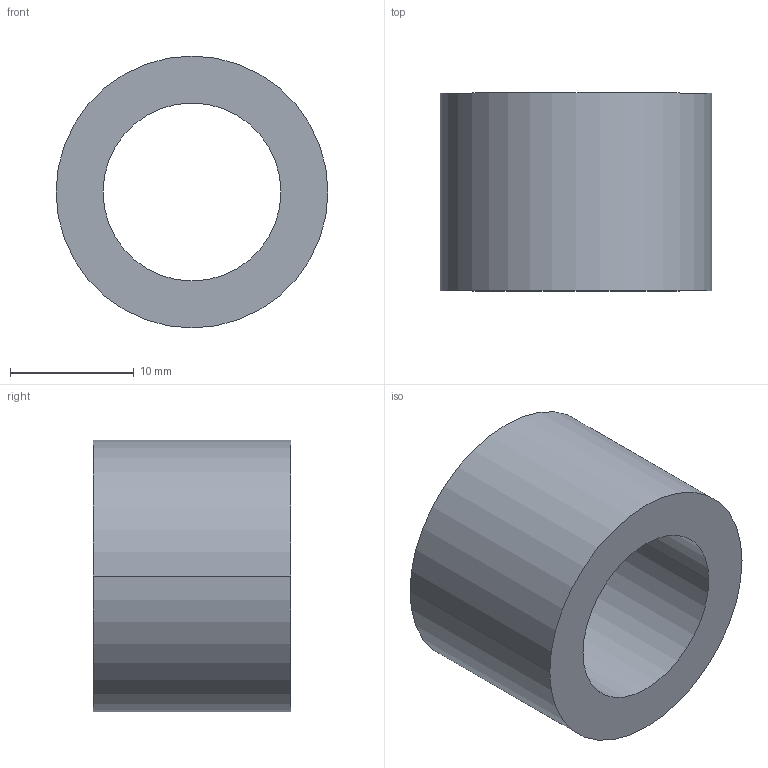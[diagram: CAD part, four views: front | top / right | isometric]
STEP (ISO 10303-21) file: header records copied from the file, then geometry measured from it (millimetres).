
FILE_DESCRIPTION (( 'STEP AP203' ), '1' );
FILE_NAME ('30800.WPP22F14.4.step', '2019-01-23T22:43:41', ( '' ), ( '' ), 'SwSTEP 2.0', 'SolidWorks 2017', '' );
FILE_SCHEMA (( 'CONFIG_CONTROL_DESIGN' ));
Length unit declared in the file: millimetre
Products named in the file (1): 30800.WPP22F14.4
Bounding box: 22 x 16 x 22 mm (x, y, z)
Volume: 3435.1 mm3; surface area: 2227.2 mm2
Topology: 1 solids, 1 shells, 8 faces, 16 edges, 10 vertices
Faces by surface type: cylinder 4, torus 2, plane 2
Entity records: 297 total; most frequent: DIRECTION 46, CARTESIAN_POINT 35, ORIENTED_EDGE 32, AXIS2_PLACEMENT_3D 21, EDGE_CURVE 16, CIRCLE 12, EDGE_LOOP 10, VERTEX_POINT 10
